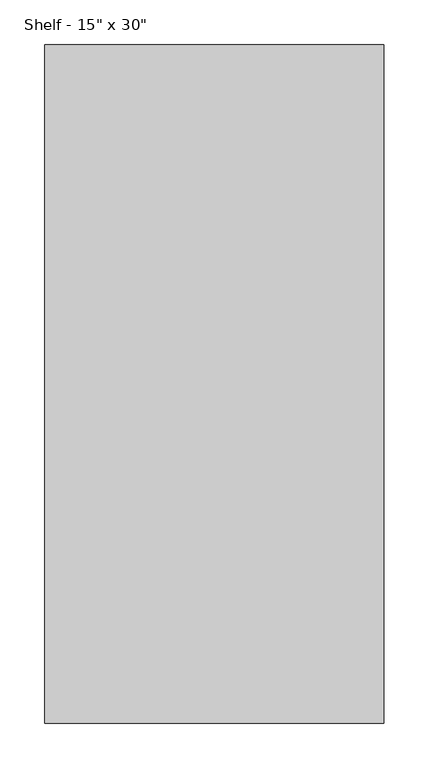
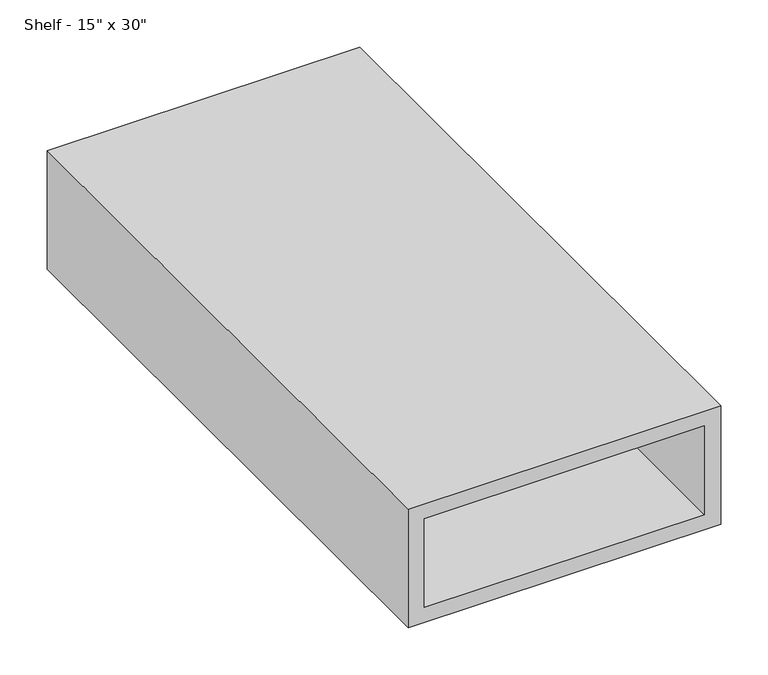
"""IFC4 building model written with IfcOpenShell, lengths in millimetres: furniture geometry."""

from ifc_helpers import new_model, si_unit, origin, place, context, project, spatial, faceted_brep, source, transform, mapped, element, save


def furniture_aa15e3dd(model_context):
    return source(origin(), model_context, "Body", "Brep", [
        faceted_brep([(190.5, 381.0, 406.4), (-190.5, 381.0, 406.4), (-190.5, -381.0, 406.4), (190.5, -381.0, 406.4), (190.5, 381.0, 254.0), (190.5, -381.0, 254.0), (-190.5, -381.0, 254.0), (-190.5, 381.0, 254.0), (170.65625, -381.0, 387.35), (170.65625, -381.0, 273.05), (-170.65625, -381.0, 273.05), (-170.65625, -381.0, 387.35), (170.65625, 361.15625, 387.35), (-170.65625, 361.15625, 387.35), (-170.65625, 361.15625, 273.05), (170.65625, 361.15625, 273.05)], [[[0, 1, 2, 3]], [[4, 5, 6, 7]], [[1, 0, 4, 7]], [[2, 1, 7, 6]], [[3, 2, 6, 5], [8, 9, 10, 11]], [[0, 3, 5, 4]], [[12, 13, 14, 15]], [[12, 15, 9, 8]], [[15, 14, 10, 9]], [[14, 13, 11, 10]], [[13, 12, 8, 11]]]),
    ])


if __name__ == "__main__":
    model = new_model("IFC4")
    model_context = context("Model", 3, world=origin())
    ifc_project = project(units=[si_unit("LENGTHUNIT", "METRE", prefix="MILLI")], contexts=[model_context])
    site = spatial("IfcSite", under=ifc_project)
    building = spatial("IfcBuilding", under=site)
    placement = place(None, origin())
    furniture_shape = furniture_aa15e3dd(model_context)
    element("IfcFurniture", 1, ObjectType="Stylex - Ambi Modular - Box : Shelf - 15\" x 30\"", at=placement, inside=building, context=model_context, shape_type="MappedRepresentation", body=[
        mapped(furniture_shape, transform((0.0, 0.0, 0.0), x_axis=(1.0, 0.0, 0.0), y_axis=(0.0, 1.0, 0.0), z_axis=(0.0, 0.0, 1.0))),
    ])
    save(model, "model.ifc")
